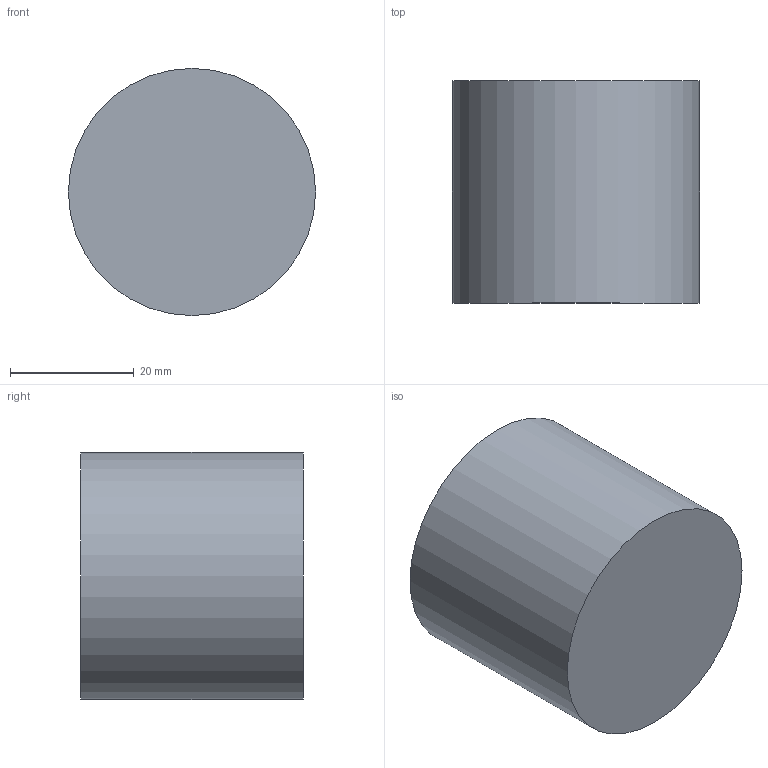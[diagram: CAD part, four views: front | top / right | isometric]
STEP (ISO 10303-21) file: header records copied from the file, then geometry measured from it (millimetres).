
FILE_DESCRIPTION(('Open CASCADE Model'),'2;1');
FILE_NAME('Open CASCADE Shape Model','2026-10-04T02:31:41',('Author'),( 'Open CASCADE'),'Open CASCADE STEP processor 8.0','Open CASCADE 8.0' ,'Unknown');
FILE_SCHEMA(('AUTOMOTIVE_DESIGN { 1 0 10303 214 1 1 1 1 }'));
Length unit declared in the file: millimetre
Products named in the file (1): Open CASCADE STEP translator 8.0 268
Bounding box: 40 x 36 x 40 mm (x, y, z)
Volume: 45238.9 mm3; surface area: 7037.2 mm2
Topology: 1 solids, 1 shells, 3 faces, 3 edges, 2 vertices
Faces by surface type: plane 2, cylinder 1
Full cylindrical faces by diameter (mm): 40 x1
Entity records: 108 total; most frequent: DIRECTION 19, CARTESIAN_POINT 15, AXIS2_PLACEMENT_3D 6, ORIENTED_EDGE 6, PCURVE 6, DEFINITIONAL_REPRESENTATION 6, LINE 5, VECTOR 5
